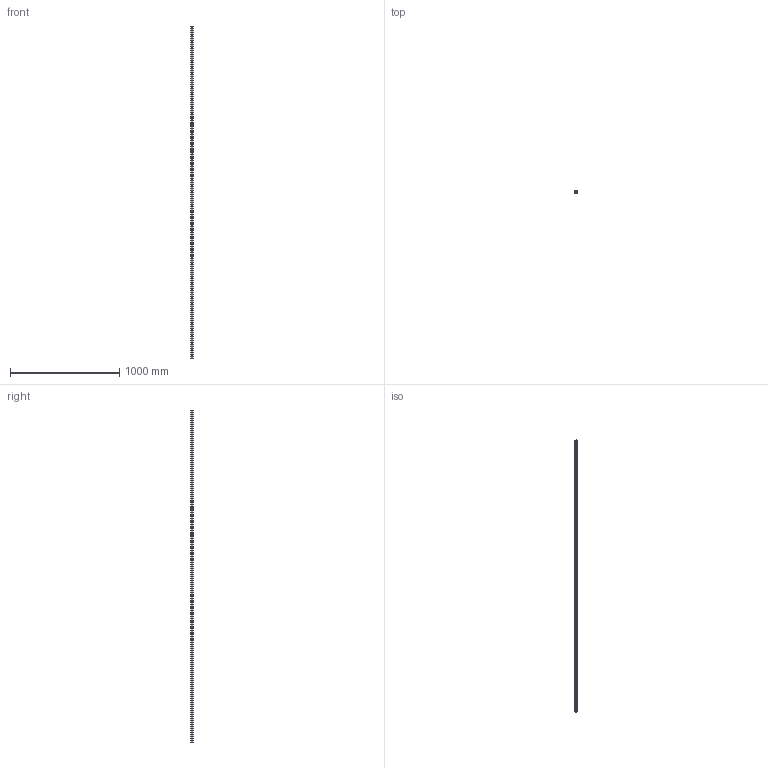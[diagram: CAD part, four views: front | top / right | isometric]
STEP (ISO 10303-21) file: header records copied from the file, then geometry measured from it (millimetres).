
FILE_DESCRIPTION (( 'STEP AP203' ), '1' );
FILE_NAME ('L1016.BRF25-3040.step', '2019-06-13T08:45:00', ( '' ), ( '' ), 'SwSTEP 2.0', 'SolidWorks 2017', '' );
FILE_SCHEMA (( 'CONFIG_CONTROL_DESIGN' ));
Length unit declared in the file: millimetre
Products named in the file (1): L1016.BRF25-3040
Bounding box: 23 x 19.2 x 3040 mm (x, y, z)
Volume: 1160688.5 mm3; surface area: 279728.3 mm2
Topology: 1 solids, 1 shells, 383 faces, 888 edges, 507 vertices
Faces by surface type: cylinder 208, cone 102, plane 73
Entity records: 10285 total; most frequent: DIRECTION 1970, CARTESIAN_POINT 1677, ORIENTED_EDGE 1572, AXIS2_PLACEMENT_3D 800, EDGE_CURVE 786, VERTEX_POINT 507, EDGE_LOOP 485, CIRCLE 416
